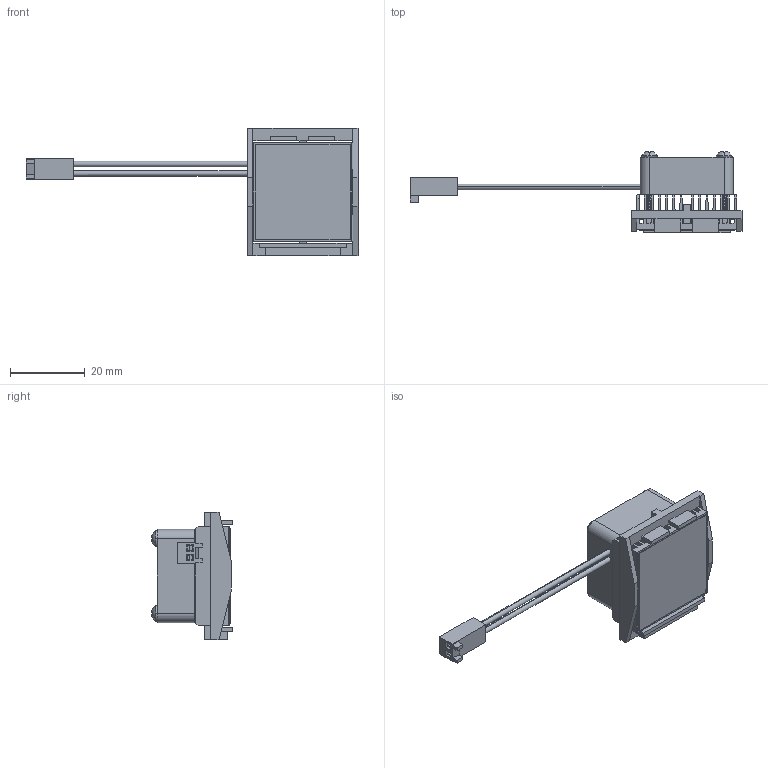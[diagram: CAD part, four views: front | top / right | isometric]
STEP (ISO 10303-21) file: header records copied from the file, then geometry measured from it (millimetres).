
FILE_DESCRIPTION (( 'STEP AP214' ), '1' );
FILE_NAME ('FI27-1.7+O.STEP', '2023-03-21T23:38:49', ( '' ), ( '' ), 'SwSTEP 2.0', 'SolidWorks 2020', '' );
FILE_SCHEMA (( 'AUTOMOTIVE_DESIGN' ));
Length unit declared in the file: millimetre
Products named in the file (1): FI27-1.7+O
Bounding box: 89 x 21.7 x 34.1 mm (x, y, z)
Volume: 8006.4 mm3; surface area: 15848 mm2
Topology: 8 solids, 8 shells, 855 faces, 2490 edges, 1656 vertices
Faces by surface type: cylinder 370, plane 307, bspline 122, cone 40, sphere 8, torus 8
Entity records: 63335 total; most frequent: CARTESIAN_POINT 34104, ORIENTED_EDGE 4980, DIRECTION 3289, EDGE_CURVE 2490, VERTEX_POINT 1656, VECTOR 1209, LINE 1209, AXIS2_PLACEMENT_3D 1040
